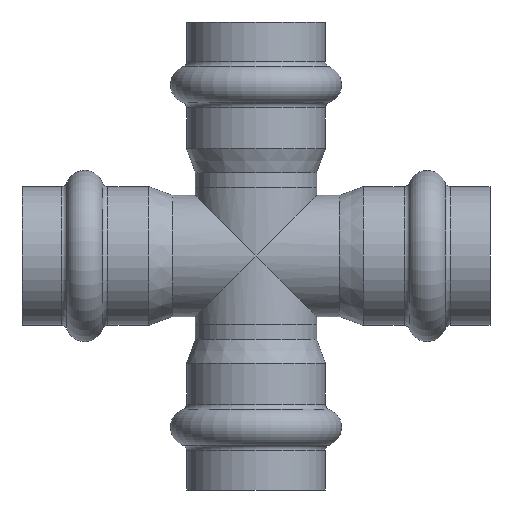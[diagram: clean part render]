
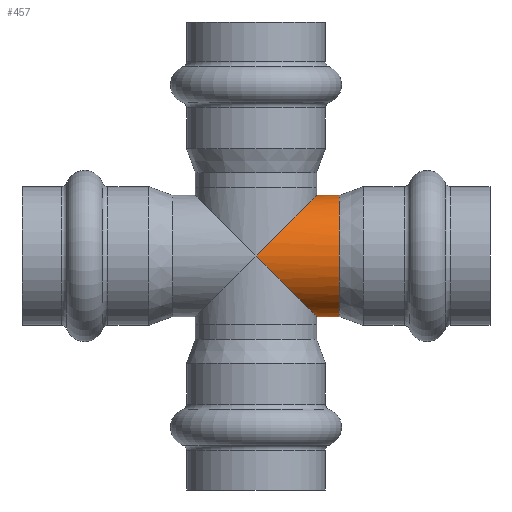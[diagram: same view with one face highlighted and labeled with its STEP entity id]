
A CAD part, left-side view. The second image highlights one B-rep face of the part: STEP entity #457.
In plain terms, the highlighted cylindrical face has radius 11 mm (diameter 22 mm), a full revolution.
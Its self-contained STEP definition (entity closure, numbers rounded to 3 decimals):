
#457=ADVANCED_FACE('',(#934,#936),#938,.T.);
#934=FACE_BOUND('',#935,.T.);
#935=EDGE_LOOP('',(#1338,#1339,#1340));
#936=FACE_OUTER_BOUND('',#937,.T.);
#937=EDGE_LOOP('',(#1341));
#938=CYLINDRICAL_SURFACE('',#939,11.);
#939=AXIS2_PLACEMENT_3D('',#940,#941,#942);
#940=CARTESIAN_POINT('',(0.,-15.104,0.));
#941=DIRECTION('',(0.,1.,0.));
#942=DIRECTION('',(0.,0.,1.));
#1338=ORIENTED_EDGE('',*,*,#1444,.F.);
#1339=ORIENTED_EDGE('',*,*,#1443,.F.);
#1340=ORIENTED_EDGE('',*,*,#1438,.F.);
#1341=ORIENTED_EDGE('',*,*,#1447,.T.);
#1438=EDGE_CURVE('',#1513,#1514,#1515,.T.);
#1443=EDGE_CURVE('',#1514,#1522,#1523,.T.);
#1444=EDGE_CURVE('',#1522,#1513,#1524,.T.);
#1447=EDGE_CURVE('',#1529,#1529,#1530,.T.);
#1513=VERTEX_POINT('',#1678);
#1514=VERTEX_POINT('',#1679);
#1515=(BOUNDED_CURVE()B_SPLINE_CURVE(3,
(#1680,#1681,#1682,#1683),
.UNSPECIFIED.,.F.,.F.)B_SPLINE_CURVE_WITH_KNOTS((4,4),
(0.,1.),
.UNSPECIFIED.)CURVE()GEOMETRIC_REPRESENTATION_ITEM()RATIONAL_B_SPLINE_CURVE((1.,
0.333,0.333,1.))REPRESENTATION_ITEM(''));
#1522=VERTEX_POINT('',#1702);
#1523=(BOUNDED_CURVE()B_SPLINE_CURVE(3,
(#1703,#1704,#1705,#1706),
.UNSPECIFIED.,.F.,.F.)B_SPLINE_CURVE_WITH_KNOTS((4,4),
(0.,1.),
.UNSPECIFIED.)CURVE()GEOMETRIC_REPRESENTATION_ITEM()RATIONAL_B_SPLINE_CURVE((1.,
0.805,0.805,1.))REPRESENTATION_ITEM(''));
#1524=(BOUNDED_CURVE()B_SPLINE_CURVE(3,
(#1707,#1708,#1709,#1710),
.UNSPECIFIED.,.F.,.F.)B_SPLINE_CURVE_WITH_KNOTS((4,4),
(0.,1.),
.UNSPECIFIED.)CURVE()GEOMETRIC_REPRESENTATION_ITEM()RATIONAL_B_SPLINE_CURVE((1.,
0.805,0.805,1.))REPRESENTATION_ITEM(''));
#1529=VERTEX_POINT('',#1721);
#1530=CIRCLE('',#1722,11.);
#1678=CARTESIAN_POINT('',(11.,0.,0.));
#1679=CARTESIAN_POINT('',(-11.,0.,0.));
#1680=CARTESIAN_POINT('',(11.,0.,0.));
#1681=CARTESIAN_POINT('',(11.,-22.,-22.));
#1682=CARTESIAN_POINT('',(-11.,-22.,-22.));
#1683=CARTESIAN_POINT('',(-11.,0.,0.));
#1702=CARTESIAN_POINT('',(0.,-11.,11.));
#1703=CARTESIAN_POINT('',(-11.,0.,0.));
#1704=CARTESIAN_POINT('',(-11.,-6.444,6.444));
#1705=CARTESIAN_POINT('',(-6.444,-11.,11.));
#1706=CARTESIAN_POINT('',(0.,-11.,11.));
#1707=CARTESIAN_POINT('',(0.,-11.,11.));
#1708=CARTESIAN_POINT('',(6.444,-11.,11.));
#1709=CARTESIAN_POINT('',(11.,-6.444,6.444));
#1710=CARTESIAN_POINT('',(11.,0.,0.));
#1721=CARTESIAN_POINT('',(0.,-15.104,11.));
#1722=AXIS2_PLACEMENT_3D('',#1723,#1724,#1725);
#1723=CARTESIAN_POINT('',(0.,-15.104,0.));
#1724=DIRECTION('',(0.,1.,0.));
#1725=DIRECTION('',(0.,0.,1.));
